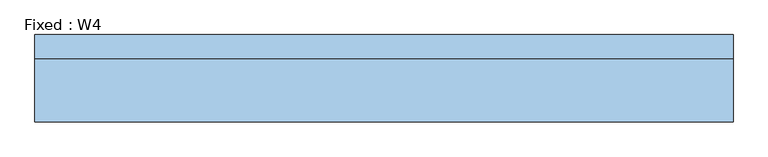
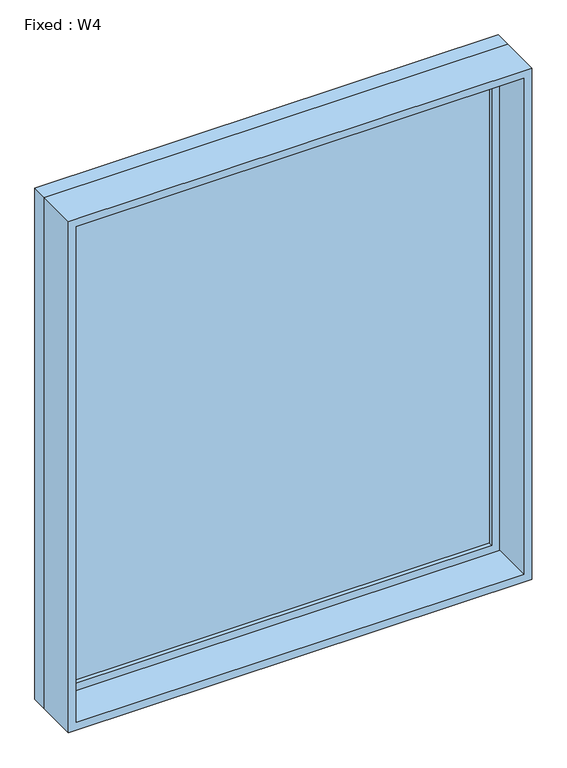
"""IFC4 building model written with IfcOpenShell, lengths in millimetres: window geometry, Fixed : W4."""

import ifcopenshell
import ifcopenshell.guid

model = None  # the IFC model being written
_history = None  # IfcOwnerHistory: only IFC2X3 demands one
_inside = {}  # id of a spatial element -> (the spatial element, [elements in it])
_under = {}  # id of a project, library or spatial element -> (it, [spatial elements below it])
_declared = {}  # id of a project -> (the project, [libraries it declares])
_typed = {}  # id of a type object -> (the type object, [elements of that type])
_made_of = {}  # id of a material, layer set ... -> (it, [elements and type objects made of it])


def new_model(schema):
    """Start an empty IFC model of exactly this schema.

    Asked for "IFC4X3", IfcOpenShell would pick the latest addendum, in which some entities
    have other attributes; the version numbers below select the first issue.
    IFC2X3 requires an IfcOwnerHistory on every rooted entity: one is made here for all.
    """
    global model, _history
    if schema == "IFC4X3":
        model = ifcopenshell.file(schema_version=(4, 3, 0, 0))
    else:
        model = ifcopenshell.file(schema=schema)
    _inside.clear()
    _under.clear()
    _declared.clear()
    _typed.clear()
    _made_of.clear()
    _history = None
    if model.schema == "IFC2X3":
        org = make("IfcOrganization", Name="unknown")
        user = make(
            "IfcPersonAndOrganization",
            ThePerson=make("IfcPerson", FamilyName="unknown"),
            TheOrganization=org,
        )
        app = make(
            "IfcApplication",
            ApplicationDeveloper=org,
            Version="unknown",
            ApplicationFullName="unknown",
            ApplicationIdentifier="unknown",
        )
        _history = make(
            "IfcOwnerHistory",
            OwningUser=user,
            OwningApplication=app,
            ChangeAction="ADDED",
            CreationDate=0,
        )
    return model


def make(cls, **values):
    """One entity of the class cls with the attributes given. An attribute that is None is left unset."""
    return model.create_entity(
        cls, **{name: value for name, value in values.items() if value is not None}
    )


def rooted(cls, **values):
    """An entity with a GlobalId (a new one), such as an element, a storey or a relation."""
    return make(cls, GlobalId=ifcopenshell.guid.new(), OwnerHistory=_history, **values)


def si_unit(unit_type, name, prefix=None):
    """IfcSIUnit, for example si_unit("LENGTHUNIT", "METRE", prefix="MILLI")."""
    return make("IfcSIUnit", UnitType=unit_type, Prefix=prefix, Name=name)


def assignment(units):
    """IfcUnitAssignment: the units of a project."""
    return None if units is None else make("IfcUnitAssignment", Units=units)


def point(xyz):
    """IfcCartesianPoint."""
    return None if xyz is None else make("IfcCartesianPoint", Coordinates=xyz)


def direction(xyz):
    """IfcDirection."""
    return None if xyz is None else make("IfcDirection", DirectionRatios=xyz)


def frame(location, z_axis=None, x_axis=None):
    """IfcAxis2Placement3D, a coordinate frame: its origin and axes. An axis left out is left unset."""
    return make(
        "IfcAxis2Placement3D",
        Location=point(location),
        Axis=direction(z_axis),
        RefDirection=direction(x_axis),
    )


def origin():
    """The frame at (0, 0, 0) with its axes left unset."""
    return frame((0.0, 0.0, 0.0))


def place(relative_to, where):
    """IfcLocalPlacement: puts the frame where relative to a parent placement (None: the world)."""
    return make(
        "IfcLocalPlacement", PlacementRelTo=relative_to, RelativePlacement=where
    )


def context(
    kind, dimensions, precision=None, world=None, true_north=None, identifier=None
):
    """IfcGeometricRepresentationContext, for example the 3D "Model" context."""
    return make(
        "IfcGeometricRepresentationContext",
        ContextIdentifier=identifier,
        ContextType=kind,
        CoordinateSpaceDimension=dimensions,
        Precision=precision,
        WorldCoordinateSystem=world,
        TrueNorth=true_north,
    )


def project(units=None, contexts=None):
    """IfcProject with its units and contexts."""
    return rooted(
        "IfcProject",
        Name="project",
        RepresentationContexts=contexts,
        UnitsInContext=assignment(units),
    )


def spatial(cls, under=None, at=None, **own):
    """A site, building, storey or space (cls), placed at a placement, below another one or the project."""
    s = rooted(cls, ObjectPlacement=at, **own)
    if under is not None:
        _under.setdefault(under.id(), (under, []))[1].append(s)
    return s


def polyline(points):
    """IfcPolyline through the points."""
    return make("IfcPolyline", Points=[point(p) for p in points])


def outline(outer, holes=None, kind="AREA"):
    """IfcArbitraryClosedProfileDef: a profile drawn as a closed curve; with holes, ...WithVoids."""
    if holes is None:
        return make("IfcArbitraryClosedProfileDef", ProfileType=kind, OuterCurve=outer)
    return make(
        "IfcArbitraryProfileDefWithVoids",
        ProfileType=kind,
        OuterCurve=outer,
        InnerCurves=holes,
    )


def extrude(swept, where, along, depth):
    """IfcExtrudedAreaSolid: the profile swept, set in the frame where, extruded along a direction by depth."""
    return make(
        "IfcExtrudedAreaSolid",
        SweptArea=swept,
        Position=where,
        ExtrudedDirection=direction(along),
        Depth=depth,
    )


def shape(context_of_items, identifier, shape_type, items):
    """IfcShapeRepresentation: the items that make up one representation, for example the "Body"."""
    return make(
        "IfcShapeRepresentation",
        ContextOfItems=context_of_items,
        RepresentationIdentifier=identifier,
        RepresentationType=shape_type,
        Items=items,
    )


def source(mapping_origin, context_of_items, identifier, shape_type, items):
    """IfcRepresentationMap: a shape defined once, which mapped items show again and again."""
    return make(
        "IfcRepresentationMap",
        MappingOrigin=mapping_origin,
        MappedRepresentation=shape(context_of_items, identifier, shape_type, items),
    )


def transform(
    local_origin,
    x_axis=None,
    y_axis=None,
    z_axis=None,
    scale=None,
    scale2=None,
    scale3=None,
    uniform=True,
):
    """IfcCartesianTransformationOperator3D, or its non-uniform kind. x_axis, y_axis, z_axis: its Axis1, 2, 3."""
    if uniform:
        return make(
            "IfcCartesianTransformationOperator3D",
            Axis1=direction(x_axis),
            Axis2=direction(y_axis),
            LocalOrigin=point(local_origin),
            Scale=scale,
            Axis3=direction(z_axis),
        )
    return make(
        "IfcCartesianTransformationOperator3DnonUniform",
        Axis1=direction(x_axis),
        Axis2=direction(y_axis),
        LocalOrigin=point(local_origin),
        Scale=scale,
        Axis3=direction(z_axis),
        Scale2=scale2,
        Scale3=scale3,
    )


def mapped(mapping_source, mapping_target):
    """IfcMappedItem: shows the shape of a source again, moved by a transform."""
    return make(
        "IfcMappedItem", MappingSource=mapping_source, MappingTarget=mapping_target
    )


def made_of(thing, what):
    """Note that an element or type object is made of a material, layer set ...; save() writes the relation."""
    if what is not None:
        _made_of.setdefault(what.id(), (what, []))[1].append(thing)
    return thing


def element(
    cls,
    number,
    at=None,
    inside=None,
    cuts=None,
    type_object=None,
    material=None,
    context=None,
    identifier="Body",
    shape_type=None,
    held_by="IfcProductDefinitionShape",
    body=None,
    shapes=None,
    **own,
):
    """One element of the class cls, such as IfcWall. Its Tag is "e" and its number.

    at: its placement. inside: the storey or other place that contains it. cuts: it is an
    opening in that element (IfcRelVoidsElement). A single representation is given by context,
    identifier, shape_type and body (its items); several are given by shapes. held_by: the class
    of the entity that holds the representations. save() writes the other relations.
    """
    e = rooted(cls, Tag="e%d" % number, ObjectPlacement=at, **own)
    if body is not None:
        shapes = [shape(context, identifier, shape_type, body)]
    if shapes is not None:
        e.Representation = make(held_by, Representations=shapes)
    if inside is not None:
        _inside.setdefault(inside.id(), (inside, []))[1].append(e)
    if cuts is not None:
        rooted(
            "IfcRelVoidsElement", RelatingBuildingElement=cuts, RelatedOpeningElement=e
        )
    if type_object is not None:
        _typed.setdefault(type_object.id(), (type_object, []))[1].append(e)
    return made_of(e, material)


def aggregate(whole, parts):
    """IfcRelAggregates: a whole, such as a stair, and the parts it consists of."""
    return rooted("IfcRelAggregates", RelatingObject=whole, RelatedObjects=parts)


def save(model, path):
    """Write the relations noted so far, then the file.

    IfcRelAggregates (storeys below a building ...), IfcRelContainedInSpatialStructure (elements
    in a storey), IfcRelDefinesByType, IfcRelAssociatesMaterial and IfcRelDeclares: one each for
    every whole, place, type object, material and project.
    """
    for whole, parts in _under.values():
        aggregate(whole, parts)
    for where, things in _inside.values():
        rooted(
            "IfcRelContainedInSpatialStructure",
            RelatedElements=things,
            RelatingStructure=where,
        )
    for kind, things in _typed.values():
        rooted("IfcRelDefinesByType", RelatedObjects=things, RelatingType=kind)
    for what, things in _made_of.values():
        rooted("IfcRelAssociatesMaterial", RelatedObjects=things, RelatingMaterial=what)
    for by, libraries in _declared.values():
        rooted("IfcRelDeclares", RelatingContext=by, RelatedDefinitions=libraries)
    model.write(path)


def fixed_w4_aaa7ff72(model_context):
    return source(origin(), model_context, "Body", "SweptSolid", [
        extrude(outline(polyline([(812.8, 66.675), (-889.0, 66.675), (-889.0, 79.375), (812.8, 79.375), (812.8, 66.675)])), frame((0.0, 0.0, 63.5), z_axis=(0.0, 0.0, 1.0), x_axis=(1.0, 0.0, 0.0)), (0.0, 0.0, 1.0), 2006.6),
        extrude(outline(polyline([(2114.55, -933.45), (19.05, -933.45), (19.05, 857.25), (2114.55, 857.25), (2114.55, -933.45)]), holes=[polyline([(2070.1, -889.0), (2070.1, 812.8), (63.5, 812.8), (63.5, -889.0), (2070.1, -889.0)])]), frame((0.0, 50.8, 0.0), z_axis=(0.0, 1.0, 0.0), x_axis=(0.0, 0.0, 1.0)), (0.0, 0.0, 1.0), 44.45),
        extrude(outline(polyline([(2133.6, -952.5), (0.0, -952.5), (0.0, 876.3), (2133.6, 876.3), (2133.6, -952.5)]), holes=[polyline([(2101.85, -920.75), (2101.85, 844.55), (31.75, 844.55), (31.75, -920.75), (2101.85, -920.75)])]), frame((0.0, -114.3, 0.0), z_axis=(0.0, 1.0, 0.0), x_axis=(0.0, 0.0, 1.0)), (0.0, 0.0, 1.0), 165.1),
        extrude(outline(polyline([(2133.6, 876.3), (2133.6, -952.5), (0.0, -952.5), (0.0, 876.3), (2133.6, 876.3)]), holes=[polyline([(2114.55, 857.25), (19.05, 857.25), (19.05, -933.45), (2114.55, -933.45), (2114.55, 857.25)])]), frame((0.0, 50.8, 0.0), z_axis=(0.0, 1.0, 0.0), x_axis=(0.0, 0.0, 1.0)), (0.0, 0.0, 1.0), 63.5),
    ])


if __name__ == "__main__":
    model = new_model("IFC4")
    model_context = context("Model", 3, world=origin())
    ifc_project = project(units=[si_unit("LENGTHUNIT", "METRE", prefix="MILLI")], contexts=[model_context])
    site = spatial("IfcSite", under=ifc_project)
    building = spatial("IfcBuilding", under=site)
    placement = place(None, origin())
    fixed_w4_shape = fixed_w4_aaa7ff72(model_context)
    element("IfcWindow", 1, ObjectType="Fixed : W4", at=placement, inside=building, context=model_context, shape_type="MappedRepresentation", body=[
        mapped(fixed_w4_shape, transform((0.0, 0.0, 0.0), x_axis=(1.0, 0.0, 0.0), y_axis=(0.0, 1.0, 0.0), z_axis=(0.0, 0.0, 1.0))),
    ])
    save(model, "model.ifc")
